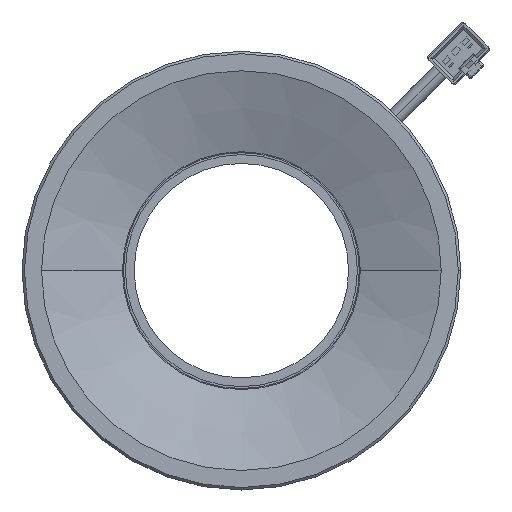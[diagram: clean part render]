
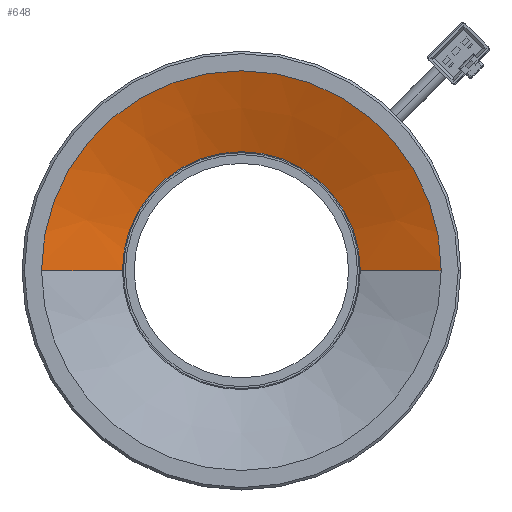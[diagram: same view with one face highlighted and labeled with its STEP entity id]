
A CAD part, front view. The second image highlights one B-rep face of the part: STEP entity #648.
In plain terms, the highlighted conical face has half-angle 70 degrees and reference radius 33.4 mm.
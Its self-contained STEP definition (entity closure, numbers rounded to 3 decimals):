
#1=DIRECTION('',(-0.94,-0.342,0.));
#2=VECTOR('',#1,19.155);
#3=CARTESIAN_POINT('',(-24.4,-7.449,0.));
#4=LINE('',#3,#2);
#5=DIRECTION('',(0.94,-0.342,0.));
#6=VECTOR('',#5,19.155);
#7=CARTESIAN_POINT('',(24.4,-7.449,0.));
#8=LINE('',#7,#6);
#14=CARTESIAN_POINT('',(0.,-7.449,0.));
#15=DIRECTION('',(0.,1.,0.));
#16=DIRECTION('',(-1.,0.,0.));
#17=AXIS2_PLACEMENT_3D('',#14,#15,#16);
#373=CARTESIAN_POINT('',(0.,-14.,0.));
#374=DIRECTION('',(0.,-1.,0.));
#375=DIRECTION('',(1.,0.,0.));
#376=AXIS2_PLACEMENT_3D('',#373,#374,#375);
#497=CARTESIAN_POINT('',(-24.4,-7.449,0.));
#498=CARTESIAN_POINT('',(-42.4,-14.,0.));
#499=VERTEX_POINT('',#497);
#500=VERTEX_POINT('',#498);
#501=CARTESIAN_POINT('',(42.4,-14.,0.));
#502=VERTEX_POINT('',#501);
#503=CARTESIAN_POINT('',(24.4,-7.449,0.));
#504=VERTEX_POINT('',#503);
#633=CARTESIAN_POINT('',(0.,-10.724,0.));
#634=DIRECTION('',(0.,-1.,0.));
#635=DIRECTION('',(-1.,0.,0.));
#636=AXIS2_PLACEMENT_3D('',#633,#634,#635);
#637=CONICAL_SURFACE('',#636,33.4,70.);
#639=ORIENTED_EDGE('',*,*,#638,.T.);
#641=ORIENTED_EDGE('',*,*,#640,.F.);
#643=ORIENTED_EDGE('',*,*,#642,.F.);
#645=ORIENTED_EDGE('',*,*,#644,.F.);
#646=EDGE_LOOP('',(#639,#641,#643,#645));
#647=FACE_OUTER_BOUND('',#646,.F.);
#18=CIRCLE('',#17,24.4);
#377=CIRCLE('',#376,42.4);
#638=EDGE_CURVE('',#499,#500,#4,.T.);
#640=EDGE_CURVE('',#502,#500,#377,.T.);
#642=EDGE_CURVE('',#504,#502,#8,.T.);
#644=EDGE_CURVE('',#499,#504,#18,.T.);
#648=ADVANCED_FACE('',(#647),#637,.F.);
